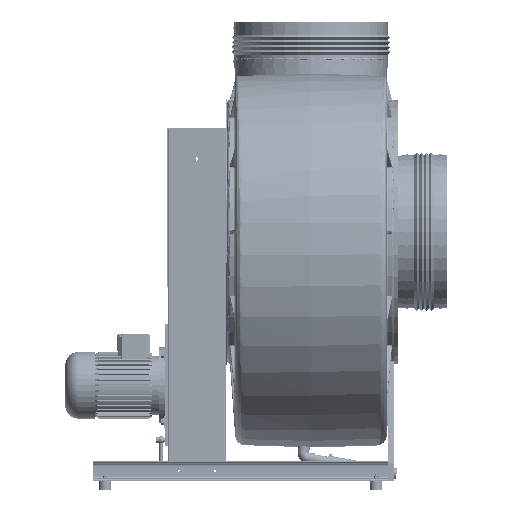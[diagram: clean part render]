
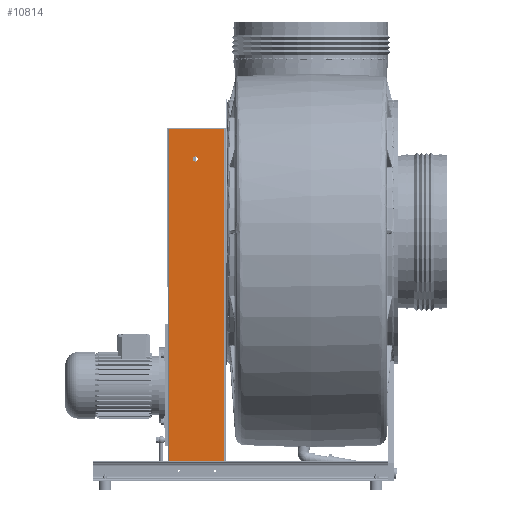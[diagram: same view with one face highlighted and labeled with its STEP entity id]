
A CAD part, left-side view. The second image highlights one B-rep face of the part: STEP entity #10814.
In plain terms, the highlighted planar face has unit normal (-1, 0, 0) as drawn and (0, -1, 0) by its records, which use the part's own axes.
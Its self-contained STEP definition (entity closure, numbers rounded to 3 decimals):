
#10814 = ADVANCED_FACE( '', ( #21306, #21307 ), #21308, .F. );
#21306 = FACE_BOUND( '', #63953, .T. );
#21307 = FACE_OUTER_BOUND( '', #63954, .T. );
#21308 = PLANE( '', #63955 );
#63953 = EDGE_LOOP( '', ( #103584 ) );
#63954 = EDGE_LOOP( '', ( #103585, #103586, #103587, #103588 ) );
#63955 = AXIS2_PLACEMENT_3D( '', #103589, #103590, #103591 );
#103584 = ORIENTED_EDGE( '', *, *, #111820, .F. );
#103585 = ORIENTED_EDGE( '', *, *, #110933, .F. );
#103586 = ORIENTED_EDGE( '', *, *, #109665, .T. );
#103587 = ORIENTED_EDGE( '', *, *, #113340, .T. );
#103588 = ORIENTED_EDGE( '', *, *, #112844, .T. );
#103589 = CARTESIAN_POINT( '', ( -95., -282., 1095. ) );
#103590 = DIRECTION( '', ( 0., 1., 0. ) );
#103591 = DIRECTION( '', ( 0., 0., 1. ) );
#109665 = EDGE_CURVE( '', #119827, #119831, #119833, .T. );
#110933 = EDGE_CURVE( '', #119827, #121803, #121804, .T. );
#111820 = EDGE_CURVE( '', #123125, #123125, #123126, .T. );
#112844 = EDGE_CURVE( '', #124581, #121803, #124582, .F. );
#113340 = EDGE_CURVE( '', #119831, #124581, #125231, .T. );
#119827 = VERTEX_POINT( '', #139394 );
#119831 = VERTEX_POINT( '', #139399 );
#119833 = LINE( '', #139401, #139402 );
#121803 = VERTEX_POINT( '', #144481 );
#121804 = LINE( '', #144482, #144483 );
#123125 = VERTEX_POINT( '', #147847 );
#123126 = CIRCLE( '', #147848, 8.5 );
#124581 = VERTEX_POINT( '', #152583 );
#124582 = LINE( '', #152584, #152585 );
#125231 = LINE( '', #155151, #155152 );
#139394 = CARTESIAN_POINT( '', ( -91., -282., 1095. ) );
#139399 = CARTESIAN_POINT( '', ( -91., -282., 0. ) );
#139401 = CARTESIAN_POINT( '', ( -91., -282., 1095. ) );
#139402 = VECTOR( '', #167676, 1000. );
#144481 = CARTESIAN_POINT( '', ( 91., -282., 1095. ) );
#144482 = CARTESIAN_POINT( '', ( -95., -282., 1095. ) );
#144483 = VECTOR( '', #169413, 1000. );
#147847 = CARTESIAN_POINT( '', ( -5., -282., 986.5 ) );
#147848 = AXIS2_PLACEMENT_3D( '', #170562, #170563, #170564 );
#152583 = CARTESIAN_POINT( '', ( 91., -282., 0. ) );
#152584 = CARTESIAN_POINT( '', ( 91., -282., 1095. ) );
#152585 = VECTOR( '', #171818, 1000. );
#155151 = CARTESIAN_POINT( '', ( -95., -282., 0. ) );
#155152 = VECTOR( '', #172520, 1000. );
#167676 = DIRECTION( '', ( 0., 0., -1. ) );
#169413 = DIRECTION( '', ( 1., 0., 0. ) );
#170562 = CARTESIAN_POINT( '', ( -5., -282., 995. ) );
#170563 = DIRECTION( '', ( 0., -1., 0. ) );
#170564 = DIRECTION( '', ( 0., 0., -1. ) );
#171818 = DIRECTION( '', ( 0., 0., -1. ) );
#172520 = DIRECTION( '', ( 1., 0., 0. ) );
